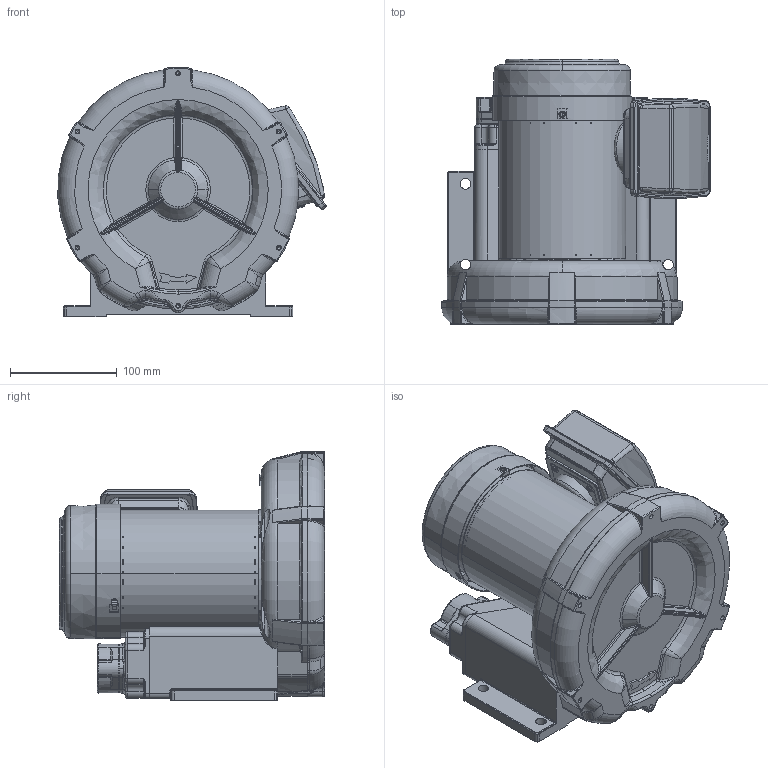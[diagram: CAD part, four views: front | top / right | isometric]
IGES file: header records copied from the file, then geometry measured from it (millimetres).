
Global section: file name: No Iges File Name specified; native system: AutoDesk Inventor R10; preprocessor: AutoDesk Inventor Iges Exporter R10; author: No Author specified; organization: No Organization specified; date: 20060120.130931; units: millimetre
Bounding box: 251.6 x 248.5 x 233.5 mm (x, y, z)
Volume: 3705330.9 mm3; surface area: 626022.9 mm2
Topology: 17 solids, 18 shells, 2563 faces, 6837 edges, 4168 vertices
Faces by surface type: bspline 951, revolution 514, cylinder 478, plane 373, torus 172, cone 45, sphere 30
